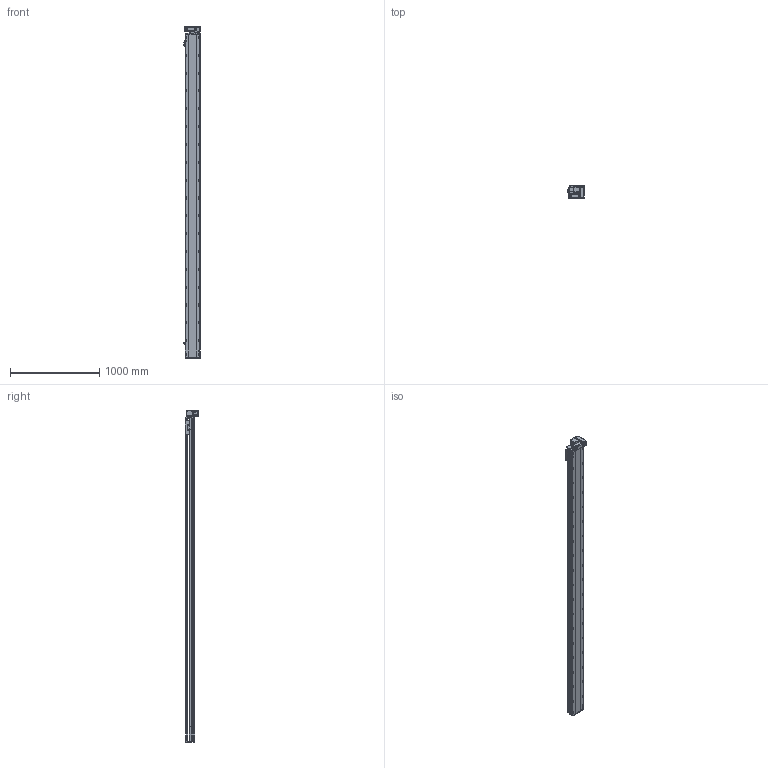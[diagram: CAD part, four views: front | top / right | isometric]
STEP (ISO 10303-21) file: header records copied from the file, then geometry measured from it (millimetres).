
FILE_DESCRIPTION (( 'STEP AP214' ), '1' );
FILE_NAME ('RTB17S-XX-3350-RM-M40-C4.STEP', '2025-12-11T08:37:50', ( '' ), ( '' ), 'SwSTEP 2.0', 'SolidWorks 2018', '' );
FILE_SCHEMA (( 'AUTOMOTIVE_DESIGN' ));
Length unit declared in the file: millimetre
Products named in the file (14): RTB14-L-017P^RTB17S-RM-々湍釱蚾饜-400W_RTB17S-XX-XX-RM-M40-C4; RTB17S-L-001耜醱啣^RTB17S-XX-XX-RM-M40-C4; RTB14-L-005P--轴承塑胶压盖^RTB17S-RM-皮带座装配-400W_RTB17S-XX-XX-RM-M40-C4; RTB17S-L-014-T20--々湍釱^RTB17S-RM-々湍釱蚾饜-400W_RTB17S-XX-XX-RM-M40-C4; RTH13-BL-012覜茼え俋离^RTB17S-XX-XX-RM-M40-C4; RTB17S-L-004佪裝蹟譫蟀諉釱^RTB17S-XX-XX-RM-M40-C4; OMRON EE-SX672 传感器^RTB17S-XX-XX-RM-M40-C4; RTB17-R-011菁釱^RTB17S-XX-XX-RM-M40-C4; RTB17S-L-007奻裔^RTB17S-XX-XX-RM-M40-C4; RTB14-L-008-M20--萇儂啣^RTB17S-RM-々湍釱蚾饜-400W_RTB17S-XX-XX-RM-M40-C4; RTB17S-XX-3350-RM-M40-C4; 400W侜督萇儂^RTB17S-XX-XX-RM-M40-C4; RTB17S-RM-々湍釱蚾饜-400W^RTB17S-XX-XX-RM-M40-C4; RTB14-L-018P^RTB17S-RM-々湍釱蚾饜-400W_RTB17S-XX-XX-RM-M40-C4
Assembly tree (16 placements, depth 3):
  RTB17S-XX-3350-RM-M40-C4
    RTB17-R-011菁釱^RTB17S-XX-XX-RM-M40-C4
    RTB17S-L-007奻裔^RTB17S-XX-XX-RM-M40-C4
    OMRON EE-SX672 传感器^RTB17S-XX-XX-RM-M40-C4  x3
    RTB17S-L-001耜醱啣^RTB17S-XX-XX-RM-M40-C4
    400W侜督萇儂^RTB17S-XX-XX-RM-M40-C4
    RTB17S-L-004佪裝蹟譫蟀諉釱^RTB17S-XX-XX-RM-M40-C4
    RTH13-BL-012覜茼え俋离^RTB17S-XX-XX-RM-M40-C4
    RTB17S-RM-々湍釱蚾饜-400W^RTB17S-XX-XX-RM-M40-C4
      RTB17S-L-014-T20--々湍釱^RTB17S-RM-々湍釱蚾饜-400W_RTB17S-XX-XX-RM-M40-C4
      RTB14-L-005P--轴承塑胶压盖^RTB17S-RM-皮带座装配-400W_RTB17S-XX-XX-RM-M40-C4
      RTB14-L-008-M20--萇儂啣^RTB17S-RM-々湍釱蚾饜-400W_RTB17S-XX-XX-RM-M40-C4
      RTB14-L-017P^RTB17S-RM-々湍釱蚾饜-400W_RTB17S-XX-XX-RM-M40-C4  x2
      RTB14-L-018P^RTB17S-RM-々湍釱蚾饜-400W_RTB17S-XX-XX-RM-M40-C4
Bounding box: 183.5 x 156.5 x 3722.5 mm (x, y, z)
Volume: 31538391.4 mm3; surface area: 3587899.6 mm2
Topology: 15 solids, 15 shells, 2397 faces, 6735 edges, 4401 vertices
Faces by surface type: plane 1092, cylinder 857, bspline 301, cone 139, torus 8
Entity records: 71849 total; most frequent: CARTESIAN_POINT 20540, ORIENTED_EDGE 10314, DIRECTION 9476, EDGE_CURVE 5157, VERTEX_POINT 3389, AXIS2_PLACEMENT_3D 3319, LINE 2838, VECTOR 2838
